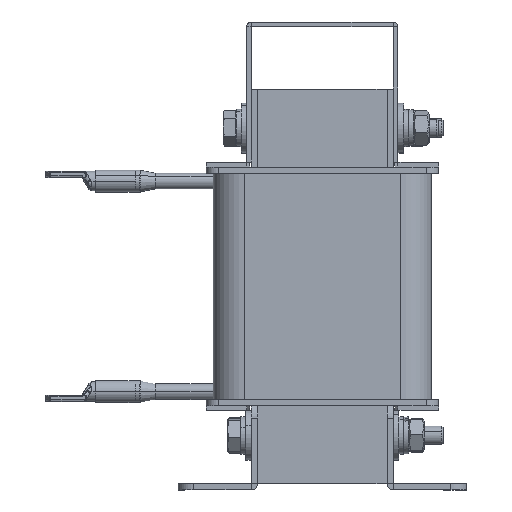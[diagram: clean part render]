
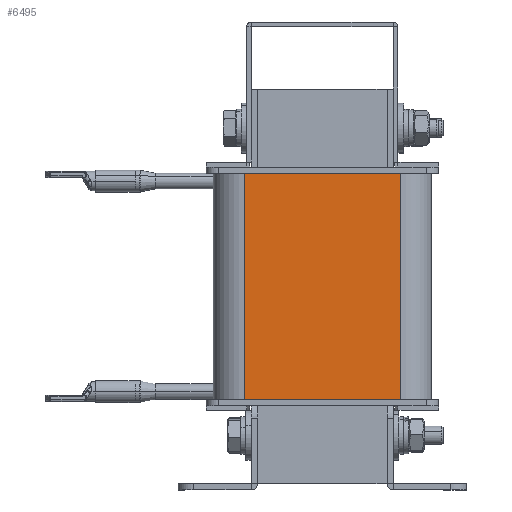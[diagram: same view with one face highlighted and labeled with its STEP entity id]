
A CAD part, left-side view. The second image highlights one B-rep face of the part: STEP entity #6495.
In plain terms, the highlighted planar face has unit normal (-1, 0, 0).
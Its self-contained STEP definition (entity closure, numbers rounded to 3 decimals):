
#453 = ORIENTED_EDGE ( 'NONE', *, *, #7486, .F. ) ;
#492 = CARTESIAN_POINT ( 'NONE',  ( -22.5, -25., -72.5 ) ) ;
#634 = FACE_OUTER_BOUND ( 'NONE', #1161, .T. ) ;
#1161 = EDGE_LOOP ( 'NONE', ( #453, #12763, #3890, #13682 ) ) ;
#1986 = LINE ( 'NONE', #13253, #5800 ) ;
#1989 = VERTEX_POINT ( 'NONE', #9316 ) ;
#2063 = DIRECTION ( 'NONE',  ( 0., -1., 0. ) ) ;
#2442 = AXIS2_PLACEMENT_3D ( 'NONE', #2877, #7313, #6234 ) ;
#2877 = CARTESIAN_POINT ( 'NONE',  ( -22.5, 35., -72.5 ) ) ;
#3337 = LINE ( 'NONE', #13230, #4317 ) ;
#3825 = DIRECTION ( 'NONE',  ( 0., 0., 1. ) ) ;
#3890 = ORIENTED_EDGE ( 'NONE', *, *, #10882, .T. ) ;
#4194 = VERTEX_POINT ( 'NONE', #12653 ) ;
#4261 = VERTEX_POINT ( 'NONE', #7340 ) ;
#4286 = CARTESIAN_POINT ( 'NONE',  ( -22.5, 35., 0. ) ) ;
#4317 = VECTOR ( 'NONE', #11743, 1000. ) ;
#4659 = VERTEX_POINT ( 'NONE', #8934 ) ;
#5800 = VECTOR ( 'NONE', #2063, 1000. ) ;
#6004 = VECTOR ( 'NONE', #3825, 1000. ) ;
#6234 = DIRECTION ( 'NONE',  ( 0., 0., 1. ) ) ;
#6495 = ADVANCED_FACE ( 'NONE', ( #634 ), #8403, .T. ) ;
#6602 = LINE ( 'NONE', #4286, #6794 ) ;
#6794 = VECTOR ( 'NONE', #8636, 1000. ) ;
#7313 = DIRECTION ( 'NONE',  ( -1., 0., 0. ) ) ;
#7340 = CARTESIAN_POINT ( 'NONE',  ( -22.5, -25., -72.5 ) ) ;
#7486 = EDGE_CURVE ( 'NONE', #1989, #4659, #6602, .T. ) ;
#7817 = EDGE_CURVE ( 'NONE', #4261, #4659, #8193, .T. ) ;
#8193 = LINE ( 'NONE', #492, #6004 ) ;
#8403 = PLANE ( 'NONE',  #2442 ) ;
#8636 = DIRECTION ( 'NONE',  ( 0., -1., 0. ) ) ;
#8934 = CARTESIAN_POINT ( 'NONE',  ( -22.5, -25., 0. ) ) ;
#9316 = CARTESIAN_POINT ( 'NONE',  ( -22.5, 25., 0. ) ) ;
#10882 = EDGE_CURVE ( 'NONE', #4194, #4261, #1986, .T. ) ;
#11743 = DIRECTION ( 'NONE',  ( 0., 0., -1. ) ) ;
#12653 = CARTESIAN_POINT ( 'NONE',  ( -22.5, 25., -72.5 ) ) ;
#12763 = ORIENTED_EDGE ( 'NONE', *, *, #12912, .T. ) ;
#12912 = EDGE_CURVE ( 'NONE', #1989, #4194, #3337, .T. ) ;
#13230 = CARTESIAN_POINT ( 'NONE',  ( -22.5, 25., -72.5 ) ) ;
#13253 = CARTESIAN_POINT ( 'NONE',  ( -22.5, 35., -72.5 ) ) ;
#13682 = ORIENTED_EDGE ( 'NONE', *, *, #7817, .T. ) ;
